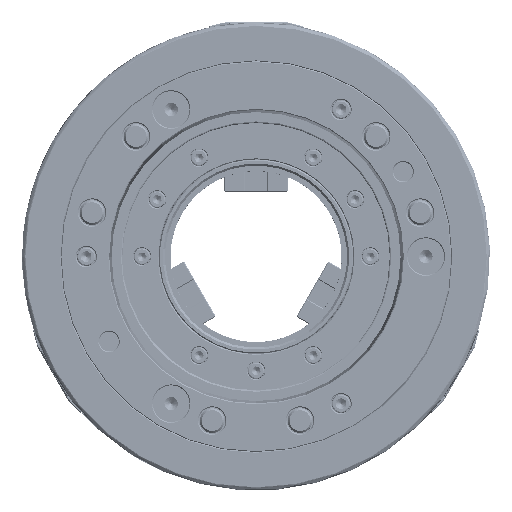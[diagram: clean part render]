
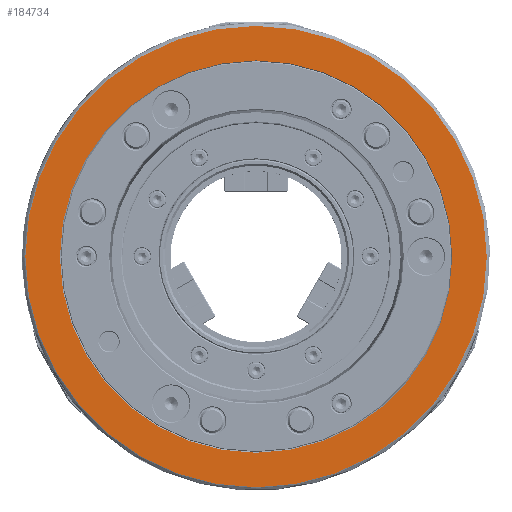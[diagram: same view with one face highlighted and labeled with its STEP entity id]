
A CAD part, front view. The second image highlights one B-rep face of the part: STEP entity #184734.
In plain terms, the highlighted planar face has unit normal (0, -1, 0).
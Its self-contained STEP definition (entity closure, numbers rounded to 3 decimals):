
#52148=FACE_BOUND('',#67642,.T.);
#59242=FACE_OUTER_BOUND('',#67641,.T.);
#67641=EDGE_LOOP('',(#166923));
#67642=EDGE_LOOP('',(#166924));
#69801=CIRCLE('',#197238,224.294);
#69803=CIRCLE('',#197241,190.721);
#86651=VERTEX_POINT('',#294487);
#86653=VERTEX_POINT('',#294492);
#113581=EDGE_CURVE('',#86651,#86651,#69801,.T.);
#113583=EDGE_CURVE('',#86653,#86653,#69803,.T.);
#166923=ORIENTED_EDGE('',*,*,#113581,.T.);
#166924=ORIENTED_EDGE('',*,*,#113583,.T.);
#177315=PLANE('',#197518);
#184734=ADVANCED_FACE('',(#59242,#52148),#177315,.T.);
#197238=AXIS2_PLACEMENT_3D('',#294488,#240761,#240762);
#197241=AXIS2_PLACEMENT_3D('',#294493,#240767,#240768);
#197518=AXIS2_PLACEMENT_3D('',#297437,#241553,#241554);
#240761=DIRECTION('center_axis',(0.,-1.,0.));
#240762=DIRECTION('ref_axis',(0.,0.,1.));
#240767=DIRECTION('center_axis',(0.,1.,0.));
#240768=DIRECTION('ref_axis',(0.,0.,-1.));
#241553=DIRECTION('center_axis',(0.,-1.,0.));
#241554=DIRECTION('ref_axis',(0.,0.,-1.));
#294487=CARTESIAN_POINT('',(0.,0.,
-224.294));
#294488=CARTESIAN_POINT('Origin',(0.,0.,0.));
#294492=CARTESIAN_POINT('',(0.,0.,
190.721));
#294493=CARTESIAN_POINT('Origin',(0.,0.,0.));
#297437=CARTESIAN_POINT('Origin',(0.,0.,0.));
